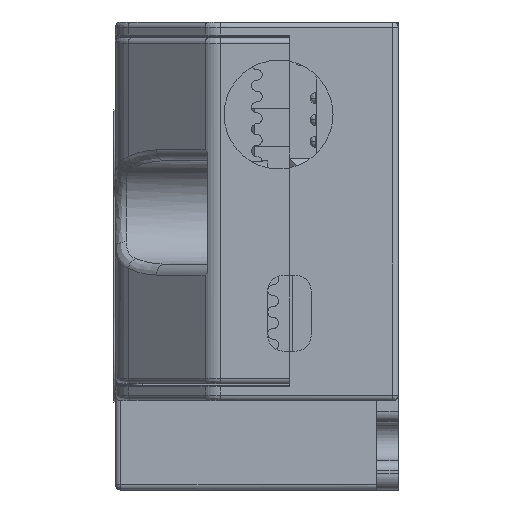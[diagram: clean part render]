
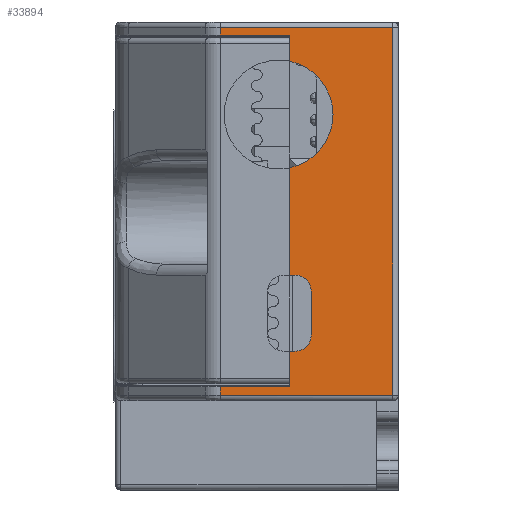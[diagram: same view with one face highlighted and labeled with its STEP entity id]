
A CAD part, left-side view. The second image highlights one B-rep face of the part: STEP entity #33894.
In plain terms, the highlighted planar face has unit normal (-1, 0, 0).
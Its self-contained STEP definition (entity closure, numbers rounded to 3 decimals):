
#49 = ORIENTED_EDGE ( 'NONE', *, *, #9717, .T. ) ;
#153 = VECTOR ( 'NONE', #26337, 1000. ) ;
#381 = CARTESIAN_POINT ( 'NONE',  ( -65.5, 16.343, -21.5 ) ) ;
#485 = VERTEX_POINT ( 'NONE', #23551 ) ;
#2345 = ORIENTED_EDGE ( 'NONE', *, *, #18732, .T. ) ;
#2859 = ORIENTED_EDGE ( 'NONE', *, *, #28384, .T. ) ;
#3019 = VERTEX_POINT ( 'NONE', #23089 ) ;
#3284 = ORIENTED_EDGE ( 'NONE', *, *, #40285, .T. ) ;
#3350 = VERTEX_POINT ( 'NONE', #15861 ) ;
#3889 = EDGE_CURVE ( 'NONE', #18797, #35425, #29129, .T. ) ;
#4429 = ORIENTED_EDGE ( 'NONE', *, *, #50253, .T. ) ;
#5601 = DIRECTION ( 'NONE',  ( 0., 0., -1. ) ) ;
#5696 = EDGE_CURVE ( 'NONE', #9038, #22852, #9568, .T. ) ;
#6133 = VERTEX_POINT ( 'NONE', #21618 ) ;
#6301 = ORIENTED_EDGE ( 'NONE', *, *, #30788, .T. ) ;
#8293 = VERTEX_POINT ( 'NONE', #28035 ) ;
#8628 = PLANE ( 'NONE',  #32410 ) ;
#8642 = DIRECTION ( 'NONE',  ( 0., 0., -1. ) ) ;
#8747 = VERTEX_POINT ( 'NONE', #12906 ) ;
#9038 = VERTEX_POINT ( 'NONE', #31210 ) ;
#9207 = LINE ( 'NONE', #37987, #29647 ) ;
#9389 = EDGE_CURVE ( 'NONE', #12144, #6133, #50493, .T. ) ;
#9507 = ORIENTED_EDGE ( 'NONE', *, *, #36791, .T. ) ;
#9568 = LINE ( 'NONE', #34465, #40708 ) ;
#9715 = EDGE_CURVE ( 'NONE', #22293, #3350, #44736, .T. ) ;
#9717 = EDGE_CURVE ( 'NONE', #11587, #24086, #12429, .T. ) ;
#9949 = LINE ( 'NONE', #35130, #19537 ) ;
#11587 = VERTEX_POINT ( 'NONE', #51900 ) ;
#12144 = VERTEX_POINT ( 'NONE', #39284 ) ;
#12228 = CARTESIAN_POINT ( 'NONE',  ( -65.5, 10., -21.5 ) ) ;
#12429 = LINE ( 'NONE', #38489, #32785 ) ;
#12789 = DIRECTION ( 'NONE',  ( -1., 0., 0. ) ) ;
#12808 = AXIS2_PLACEMENT_3D ( 'NONE', #44280, #20067, #48350 ) ;
#12906 = CARTESIAN_POINT ( 'NONE',  ( -65.5, 0.5, -12.8 ) ) ;
#13885 = VECTOR ( 'NONE', #52255, 1000. ) ;
#15224 = VECTOR ( 'NONE', #23535, 1000. ) ;
#15861 = CARTESIAN_POINT ( 'NONE',  ( -65.5, 9.5, -8.75 ) ) ;
#16394 = CARTESIAN_POINT ( 'NONE',  ( -65.5, 10., -12. ) ) ;
#16431 = EDGE_CURVE ( 'NONE', #485, #12144, #44958, .T. ) ;
#17152 = ORIENTED_EDGE ( 'NONE', *, *, #46906, .T. ) ;
#18668 = VECTOR ( 'NONE', #23221, 1000. ) ;
#18732 = EDGE_CURVE ( 'NONE', #8293, #22293, #9949, .T. ) ;
#18797 = VERTEX_POINT ( 'NONE', #51460 ) ;
#19112 = CARTESIAN_POINT ( 'NONE',  ( -65.5, 0.5, -21.5 ) ) ;
#19341 = CARTESIAN_POINT ( 'NONE',  ( -65.5, 11., 13. ) ) ;
#19498 = VECTOR ( 'NONE', #46828, 1000. ) ;
#19537 = VECTOR ( 'NONE', #39007, 1000. ) ;
#20067 = DIRECTION ( 'NONE',  ( 1., 0., 0. ) ) ;
#21618 = CARTESIAN_POINT ( 'NONE',  ( -65.5, 9.5, -1.75 ) ) ;
#21964 = LINE ( 'NONE', #38561, #153 ) ;
#22286 = CARTESIAN_POINT ( 'NONE',  ( -65.5, 10., 17.899 ) ) ;
#22293 = VERTEX_POINT ( 'NONE', #24058 ) ;
#22468 = ORIENTED_EDGE ( 'NONE', *, *, #3889, .T. ) ;
#22852 = VERTEX_POINT ( 'NONE', #24872 ) ;
#23089 = CARTESIAN_POINT ( 'NONE',  ( -65.5, 10., 20.3 ) ) ;
#23221 = DIRECTION ( 'NONE',  ( 0., 0., 1. ) ) ;
#23464 = DIRECTION ( 'NONE',  ( 0., 0., 1. ) ) ;
#23514 = VECTOR ( 'NONE', #8642, 1000. ) ;
#23535 = DIRECTION ( 'NONE',  ( 0., -1., 0. ) ) ;
#23551 = CARTESIAN_POINT ( 'NONE',  ( -65.5, 10., 8.101 ) ) ;
#24036 = CARTESIAN_POINT ( 'NONE',  ( -65.5, 16.343, 20.3 ) ) ;
#24058 = CARTESIAN_POINT ( 'NONE',  ( -65.5, 8., -7.25 ) ) ;
#24086 = VERTEX_POINT ( 'NONE', #16394 ) ;
#24872 = CARTESIAN_POINT ( 'NONE',  ( -65.5, 16.343, -12.8 ) ) ;
#26015 = LINE ( 'NONE', #39654, #15224 ) ;
#26337 = DIRECTION ( 'NONE',  ( 0., -1., 0. ) ) ;
#27195 = ORIENTED_EDGE ( 'NONE', *, *, #5696, .T. ) ;
#27493 = ORIENTED_EDGE ( 'NONE', *, *, #47399, .T. ) ;
#28035 = CARTESIAN_POINT ( 'NONE',  ( -65.5, 8., -3.25 ) ) ;
#28253 = VERTEX_POINT ( 'NONE', #39609 ) ;
#28384 = EDGE_CURVE ( 'NONE', #6133, #8293, #49581, .T. ) ;
#28540 = DIRECTION ( 'NONE',  ( 0., 0., -1. ) ) ;
#28594 = CARTESIAN_POINT ( 'NONE',  ( -65.5, 30., -12. ) ) ;
#29129 = LINE ( 'NONE', #381, #49310 ) ;
#29647 = VECTOR ( 'NONE', #42020, 1000. ) ;
#30788 = EDGE_CURVE ( 'NONE', #22852, #8747, #9207, .T. ) ;
#31210 = CARTESIAN_POINT ( 'NONE',  ( -65.5, 16.343, -12. ) ) ;
#31408 = EDGE_CURVE ( 'NONE', #18797, #28253, #21964, .T. ) ;
#31873 = ORIENTED_EDGE ( 'NONE', *, *, #16431, .T. ) ;
#32061 = CIRCLE ( 'NONE', #47201, 5. ) ;
#32410 = AXIS2_PLACEMENT_3D ( 'NONE', #37141, #12789, #41159 ) ;
#32672 = DIRECTION ( 'NONE',  ( 0., 1., 0. ) ) ;
#32785 = VECTOR ( 'NONE', #38472, 1000. ) ;
#32837 = VECTOR ( 'NONE', #44638, 1000. ) ;
#33894 = ADVANCED_FACE ( 'NONE', ( #42580 ), #8628, .T. ) ;
#34465 = CARTESIAN_POINT ( 'NONE',  ( -65.5, 16.343, -21.5 ) ) ;
#35130 = CARTESIAN_POINT ( 'NONE',  ( -65.5, 8., -21.5 ) ) ;
#35153 = VECTOR ( 'NONE', #32672, 1000. ) ;
#35425 = VERTEX_POINT ( 'NONE', #24036 ) ;
#36791 = EDGE_CURVE ( 'NONE', #24086, #9038, #45797, .T. ) ;
#37141 = CARTESIAN_POINT ( 'NONE',  ( -65.5, 30., -21.5 ) ) ;
#37987 = CARTESIAN_POINT ( 'NONE',  ( -65.5, 30., -12.8 ) ) ;
#38200 = DIRECTION ( 'NONE',  ( 0., 0., -1. ) ) ;
#38250 = DIRECTION ( 'NONE',  ( 1., 0., 0. ) ) ;
#38304 = CARTESIAN_POINT ( 'NONE',  ( -65.5, 9.5, -7.25 ) ) ;
#38472 = DIRECTION ( 'NONE',  ( 0., 0., -1. ) ) ;
#38489 = CARTESIAN_POINT ( 'NONE',  ( -65.5, 10., -21.5 ) ) ;
#38561 = CARTESIAN_POINT ( 'NONE',  ( -65.5, 16.633, 21. ) ) ;
#39007 = DIRECTION ( 'NONE',  ( 0., 0., -1. ) ) ;
#39284 = CARTESIAN_POINT ( 'NONE',  ( -65.5, 10., -1.75 ) ) ;
#39609 = CARTESIAN_POINT ( 'NONE',  ( -65.5, 0.5, 21. ) ) ;
#39654 = CARTESIAN_POINT ( 'NONE',  ( -65.5, 30., 20.3 ) ) ;
#39950 = VERTEX_POINT ( 'NONE', #22286 ) ;
#40215 = LINE ( 'NONE', #19112, #18668 ) ;
#40285 = EDGE_CURVE ( 'NONE', #3019, #39950, #42321, .T. ) ;
#40708 = VECTOR ( 'NONE', #28540, 1000. ) ;
#41159 = DIRECTION ( 'NONE',  ( 0., 0., 1. ) ) ;
#42020 = DIRECTION ( 'NONE',  ( 0., -1., 0. ) ) ;
#42321 = LINE ( 'NONE', #12228, #32837 ) ;
#42580 = FACE_OUTER_BOUND ( 'NONE', #46863, .T. ) ;
#42887 = ORIENTED_EDGE ( 'NONE', *, *, #9715, .T. ) ;
#43225 = AXIS2_PLACEMENT_3D ( 'NONE', #38304, #38250, #38200 ) ;
#43535 = EDGE_CURVE ( 'NONE', #35425, #3019, #26015, .T. ) ;
#43636 = ORIENTED_EDGE ( 'NONE', *, *, #31408, .F. ) ;
#43977 = CARTESIAN_POINT ( 'NONE',  ( -65.5, 30., -8.75 ) ) ;
#44280 = CARTESIAN_POINT ( 'NONE',  ( -65.5, 9.5, -3.25 ) ) ;
#44638 = DIRECTION ( 'NONE',  ( 0., 0., -1. ) ) ;
#44736 = CIRCLE ( 'NONE', #43225, 1.5 ) ;
#44958 = LINE ( 'NONE', #49262, #23514 ) ;
#45797 = LINE ( 'NONE', #28594, #35153 ) ;
#46118 = ORIENTED_EDGE ( 'NONE', *, *, #9389, .T. ) ;
#46537 = CARTESIAN_POINT ( 'NONE',  ( -65.5, 30., -1.75 ) ) ;
#46828 = DIRECTION ( 'NONE',  ( 0., -1., 0. ) ) ;
#46863 = EDGE_LOOP ( 'NONE', ( #6301, #27493, #43636, #22468, #47883, #3284, #17152, #31873, #46118, #2859, #2345, #42887, #4429, #49, #9507, #27195 ) ) ;
#46906 = EDGE_CURVE ( 'NONE', #39950, #485, #32061, .T. ) ;
#47201 = AXIS2_PLACEMENT_3D ( 'NONE', #19341, #47639, #23464 ) ;
#47399 = EDGE_CURVE ( 'NONE', #8747, #28253, #40215, .T. ) ;
#47435 = LINE ( 'NONE', #43977, #13885 ) ;
#47639 = DIRECTION ( 'NONE',  ( 1., 0., 0. ) ) ;
#47883 = ORIENTED_EDGE ( 'NONE', *, *, #43535, .T. ) ;
#48350 = DIRECTION ( 'NONE',  ( 0., 0., -1. ) ) ;
#49262 = CARTESIAN_POINT ( 'NONE',  ( -65.5, 10., -21.5 ) ) ;
#49310 = VECTOR ( 'NONE', #5601, 1000. ) ;
#49581 = CIRCLE ( 'NONE', #12808, 1.5 ) ;
#50253 = EDGE_CURVE ( 'NONE', #3350, #11587, #47435, .T. ) ;
#50493 = LINE ( 'NONE', #46537, #19498 ) ;
#51460 = CARTESIAN_POINT ( 'NONE',  ( -65.5, 16.343, 21. ) ) ;
#51900 = CARTESIAN_POINT ( 'NONE',  ( -65.5, 10., -8.75 ) ) ;
#52255 = DIRECTION ( 'NONE',  ( 0., 1., 0. ) ) ;
